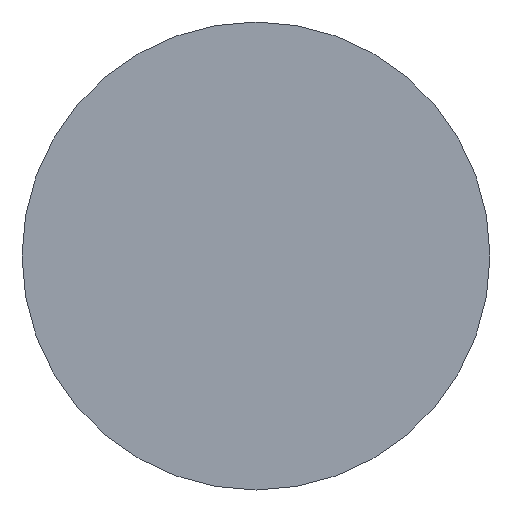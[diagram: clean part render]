
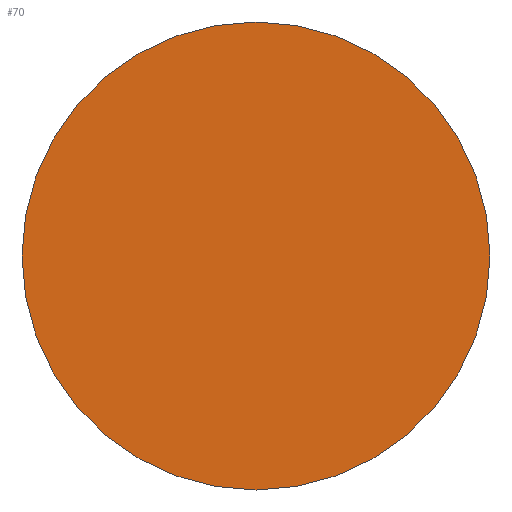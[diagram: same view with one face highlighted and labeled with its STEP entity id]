
A CAD part, left-side view. The second image highlights one B-rep face of the part: STEP entity #70.
In plain terms, the highlighted planar face has unit normal (-1, 0, 0).
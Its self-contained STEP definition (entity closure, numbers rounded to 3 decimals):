
#31 = VERTEX_POINT('',#32);
#32 = CARTESIAN_POINT('',(-210.4,-113.,-1.65));
#38 = EDGE_CURVE('',#31,#31,#39,.T.);
#39 = CIRCLE('',#40,3.1);
#40 = AXIS2_PLACEMENT_3D('',#41,#42,#43);
#41 = CARTESIAN_POINT('',(-210.4,-113.,-4.75));
#42 = DIRECTION('',(1.,0.,0.));
#43 = DIRECTION('',(-0.,0.,1.));
#70 = ADVANCED_FACE('',(#71),#74,.F.);
#71 = FACE_BOUND('',#72,.T.);
#72 = EDGE_LOOP('',(#73));
#73 = ORIENTED_EDGE('',*,*,#38,.F.);
#74 = PLANE('',#75);
#75 = AXIS2_PLACEMENT_3D('',#76,#77,#78);
#76 = CARTESIAN_POINT('',(-210.4,-113.,-4.75));
#77 = DIRECTION('',(1.,0.,0.));
#78 = DIRECTION('',(-0.,0.,1.));
